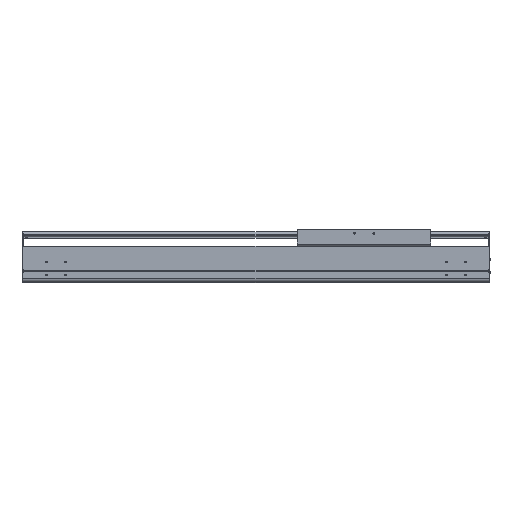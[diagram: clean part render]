
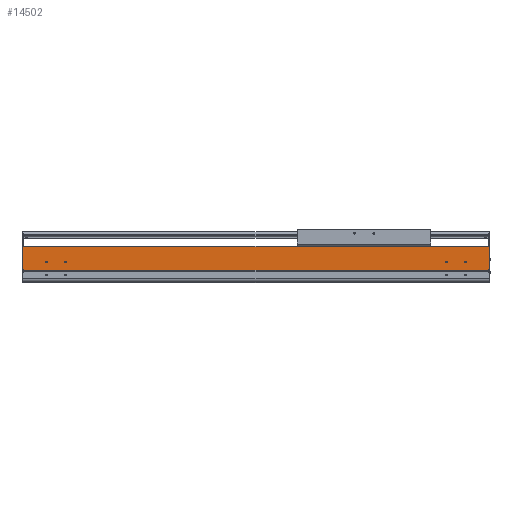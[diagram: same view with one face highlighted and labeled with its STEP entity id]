
A CAD part, top view. The second image highlights one B-rep face of the part: STEP entity #14502.
In plain terms, the highlighted planar face has unit normal (0, 0, 1).
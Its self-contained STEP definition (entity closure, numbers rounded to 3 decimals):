
#1840=DIRECTION('',(0.,-1.,0.));
#1841=VECTOR('',#1840,2.55);
#1842=CARTESIAN_POINT('',(0.,34.65,107.));
#1843=LINE('',#1842,#1841);
#2323=DIRECTION('',(1.,0.,0.));
#2324=VECTOR('',#2323,2.);
#2325=CARTESIAN_POINT('',(-1221.,34.65,107.));
#2326=LINE('',#2325,#2324);
#2327=CARTESIAN_POINT('',(-59.5,54.,107.));
#2328=DIRECTION('',(0.,0.,-1.));
#2329=DIRECTION('',(1.,0.,0.));
#2330=AXIS2_PLACEMENT_3D('',#2327,#2328,#2329);
#2332=CARTESIAN_POINT('',(-59.5,54.,107.));
#2333=DIRECTION('',(0.,0.,-1.));
#2334=DIRECTION('',(-1.,0.,0.));
#2335=AXIS2_PLACEMENT_3D('',#2332,#2333,#2334);
#2337=CARTESIAN_POINT('',(-109.5,54.,107.));
#2338=DIRECTION('',(0.,0.,-1.));
#2339=DIRECTION('',(1.,0.,0.));
#2340=AXIS2_PLACEMENT_3D('',#2337,#2338,#2339);
#2342=CARTESIAN_POINT('',(-109.5,54.,107.));
#2343=DIRECTION('',(0.,0.,-1.));
#2344=DIRECTION('',(-1.,0.,0.));
#2345=AXIS2_PLACEMENT_3D('',#2342,#2343,#2344);
#2347=CARTESIAN_POINT('',(-1159.5,54.,107.));
#2348=DIRECTION('',(0.,0.,-1.));
#2349=DIRECTION('',(1.,0.,0.));
#2350=AXIS2_PLACEMENT_3D('',#2347,#2348,#2349);
#2352=CARTESIAN_POINT('',(-1159.5,54.,107.));
#2353=DIRECTION('',(0.,0.,-1.));
#2354=DIRECTION('',(-1.,0.,0.));
#2355=AXIS2_PLACEMENT_3D('',#2352,#2353,#2354);
#2357=CARTESIAN_POINT('',(-1109.5,54.,107.));
#2358=DIRECTION('',(0.,0.,-1.));
#2359=DIRECTION('',(1.,0.,0.));
#2360=AXIS2_PLACEMENT_3D('',#2357,#2358,#2359);
#2362=CARTESIAN_POINT('',(-1109.5,54.,107.));
#2363=DIRECTION('',(0.,0.,-1.));
#2364=DIRECTION('',(-1.,0.,0.));
#2365=AXIS2_PLACEMENT_3D('',#2362,#2363,#2364);
#2367=DIRECTION('',(0.,-1.,0.));
#2368=VECTOR('',#2367,2.55);
#2369=CARTESIAN_POINT('',(-1219.,34.65,107.));
#2370=LINE('',#2369,#2368);
#2371=DIRECTION('',(0.,-1.,0.));
#2372=VECTOR('',#2371,58.85);
#2373=CARTESIAN_POINT('',(-1221.,93.5,107.));
#2374=LINE('',#2373,#2372);
#2375=DIRECTION('',(0.,1.,0.));
#2376=VECTOR('',#2375,58.85);
#2377=CARTESIAN_POINT('',(2.,34.65,107.));
#2378=LINE('',#2377,#2376);
#2379=DIRECTION('',(1.,0.,0.));
#2380=VECTOR('',#2379,1219.);
#2381=CARTESIAN_POINT('',(-1219.,32.1,107.));
#2382=LINE('',#2381,#2380);
#2487=DIRECTION('',(-1.,0.,0.));
#2488=VECTOR('',#2487,1223.);
#2489=CARTESIAN_POINT('',(2.,93.5,107.));
#2490=LINE('',#2489,#2488);
#7819=DIRECTION('',(1.,0.,0.));
#7820=VECTOR('',#7819,2.);
#7821=CARTESIAN_POINT('',(0.,34.65,107.));
#7822=LINE('',#7821,#7820);
#8973=CARTESIAN_POINT('',(-1221.,34.65,107.));
#8974=VERTEX_POINT('',#8973);
#8975=CARTESIAN_POINT('',(-1221.,93.5,107.));
#8976=VERTEX_POINT('',#8975);
#9205=CARTESIAN_POINT('',(-1219.,32.1,107.));
#9206=VERTEX_POINT('',#9205);
#9489=CARTESIAN_POINT('',(0.,32.1,107.));
#9490=VERTEX_POINT('',#9489);
#9491=CARTESIAN_POINT('',(-57.,54.,107.));
#9492=CARTESIAN_POINT('',(-62.,54.,107.));
#9493=VERTEX_POINT('',#9491);
#9494=VERTEX_POINT('',#9492);
#9495=CARTESIAN_POINT('',(-107.,54.,107.));
#9496=CARTESIAN_POINT('',(-112.,54.,107.));
#9497=VERTEX_POINT('',#9495);
#9498=VERTEX_POINT('',#9496);
#9499=CARTESIAN_POINT('',(-1157.,54.,107.));
#9500=CARTESIAN_POINT('',(-1162.,54.,107.));
#9501=VERTEX_POINT('',#9499);
#9502=VERTEX_POINT('',#9500);
#9503=CARTESIAN_POINT('',(-1107.,54.,107.));
#9504=CARTESIAN_POINT('',(-1112.,54.,107.));
#9505=VERTEX_POINT('',#9503);
#9506=VERTEX_POINT('',#9504);
#10326=CARTESIAN_POINT('',(2.,34.65,107.));
#10327=VERTEX_POINT('',#10326);
#10328=CARTESIAN_POINT('',(2.,93.5,107.));
#10329=VERTEX_POINT('',#10328);
#10780=CARTESIAN_POINT('',(0.,34.65,107.));
#10781=VERTEX_POINT('',#10780);
#10860=CARTESIAN_POINT('',(-1219.,34.65,107.));
#10861=VERTEX_POINT('',#10860);
#14460=CARTESIAN_POINT('',(-609.5,62.8,107.));
#14461=DIRECTION('',(0.,0.,1.));
#14462=DIRECTION('',(0.,-1.,0.));
#14463=AXIS2_PLACEMENT_3D('',#14460,#14461,#14462);
#14464=PLANE('',#14463);
#14465=ORIENTED_EDGE('',*,*,#11946,.F.);
#14466=ORIENTED_EDGE('',*,*,#14455,.F.);
#14467=ORIENTED_EDGE('',*,*,#12575,.F.);
#14469=ORIENTED_EDGE('',*,*,#14468,.F.);
#14470=ORIENTED_EDGE('',*,*,#11683,.F.);
#14472=ORIENTED_EDGE('',*,*,#14471,.F.);
#14473=ORIENTED_EDGE('',*,*,#14063,.T.);
#14475=ORIENTED_EDGE('',*,*,#14474,.F.);
#14476=EDGE_LOOP('',(#14465,#14466,#14467,#14469,#14470,#14472,#14473,#14475));
#14477=FACE_OUTER_BOUND('',#14476,.F.);
#14479=ORIENTED_EDGE('',*,*,#14478,.F.);
#14481=ORIENTED_EDGE('',*,*,#14480,.F.);
#14482=EDGE_LOOP('',(#14479,#14481));
#14483=FACE_BOUND('',#14482,.F.);
#14485=ORIENTED_EDGE('',*,*,#14484,.F.);
#14487=ORIENTED_EDGE('',*,*,#14486,.F.);
#14488=EDGE_LOOP('',(#14485,#14487));
#14489=FACE_BOUND('',#14488,.F.);
#14491=ORIENTED_EDGE('',*,*,#14490,.F.);
#14493=ORIENTED_EDGE('',*,*,#14492,.F.);
#14494=EDGE_LOOP('',(#14491,#14493));
#14495=FACE_BOUND('',#14494,.F.);
#14497=ORIENTED_EDGE('',*,*,#14496,.F.);
#14499=ORIENTED_EDGE('',*,*,#14498,.F.);
#14500=EDGE_LOOP('',(#14497,#14499));
#14501=FACE_BOUND('',#14500,.F.);
#14502=ADVANCED_FACE('',(#14477,#14483,#14489,#14495,#14501),#14464,.T.);
#2331=CIRCLE('',#2330,2.5);
#2336=CIRCLE('',#2335,2.5);
#2341=CIRCLE('',#2340,2.5);
#2346=CIRCLE('',#2345,2.5);
#2351=CIRCLE('',#2350,2.5);
#2356=CIRCLE('',#2355,2.5);
#2361=CIRCLE('',#2360,2.5);
#2366=CIRCLE('',#2365,2.5);
#11683=EDGE_CURVE('',#10327,#10329,#2378,.T.);
#11946=EDGE_CURVE('',#10861,#9206,#2370,.T.);
#12575=EDGE_CURVE('',#8976,#8974,#2374,.T.);
#14063=EDGE_CURVE('',#10781,#9490,#1843,.T.);
#14455=EDGE_CURVE('',#8974,#10861,#2326,.T.);
#14468=EDGE_CURVE('',#10329,#8976,#2490,.T.);
#14471=EDGE_CURVE('',#10781,#10327,#7822,.T.);
#14474=EDGE_CURVE('',#9206,#9490,#2382,.T.);
#14478=EDGE_CURVE('',#9497,#9498,#2341,.T.);
#14480=EDGE_CURVE('',#9498,#9497,#2346,.T.);
#14484=EDGE_CURVE('',#9501,#9502,#2351,.T.);
#14486=EDGE_CURVE('',#9502,#9501,#2356,.T.);
#14490=EDGE_CURVE('',#9505,#9506,#2361,.T.);
#14492=EDGE_CURVE('',#9506,#9505,#2366,.T.);
#14496=EDGE_CURVE('',#9493,#9494,#2331,.T.);
#14498=EDGE_CURVE('',#9494,#9493,#2336,.T.);
